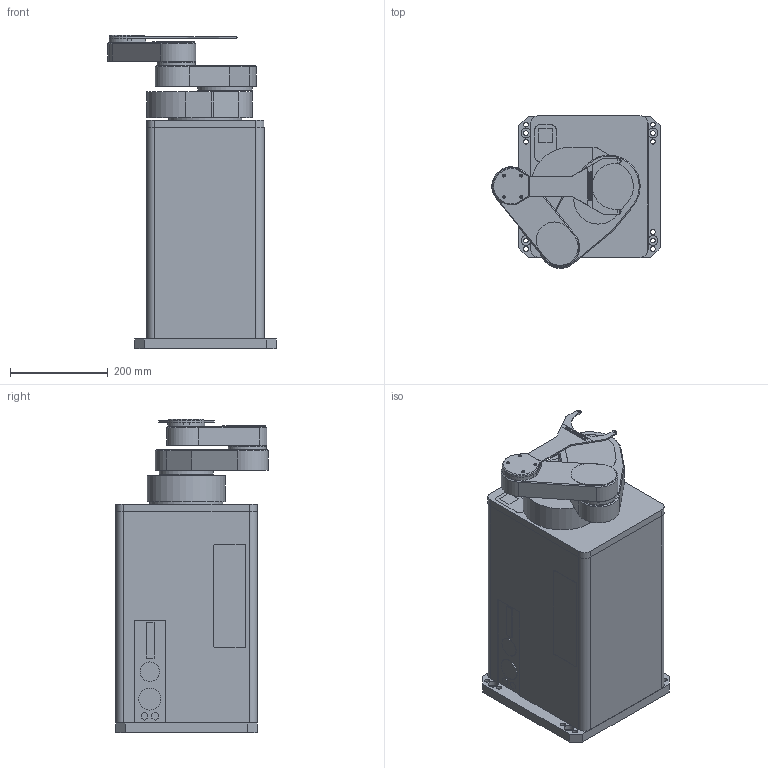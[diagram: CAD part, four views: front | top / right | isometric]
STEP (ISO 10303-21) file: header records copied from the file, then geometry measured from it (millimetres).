
FILE_DESCRIPTION(/* description */ (''),/* implementation_level */ '2;1');
FILE_NAME(/* name */ 'C:\Users\h-mitaka\Desktop\MCR3160C-300-AM-07055A.stp',/* time_stamp */ '2016-03-30T13:07:03+09:00',/* author */ ('h-mitaka'),/* organization */ (''),/* preprocessor_version */ 'ST-DEVELOPER v16.1',/* originating_system */ 'Autodesk Inventor 2016',/* authorisation */ '');
FILE_SCHEMA (('AUTOMOTIVE_DESIGN { 1 0 10303 214 3 1 1 }'));
Length unit declared in the file: millimetre
Products named in the file (8): BODY-MCSB300-V; PIPE-MCS300; ARM1-MC160; ARM2-MC160; WRIST-BLOCK; 3D-01661; COVER; MCR3160C-300-AM-07055A
Assembly tree (7 placements, depth 2):
  MCR3160C-300-AM-07055A
    BODY-MCSB300-V
    PIPE-MCS300
    ARM1-MC160
    ARM2-MC160
    WRIST-BLOCK
    3D-01661
    COVER
Bounding box: 344.99 x 312.9 x 642 mm (x, y, z)
Volume: 36345960.1 mm3; surface area: 1224597.1 mm2
Topology: 7 solids, 7 shells, 284 faces, 718 edges, 474 vertices
Faces by surface type: plane 178, cylinder 95, cone 11
Full cylindrical faces by diameter (mm): 3 x4, 3.6 x4, 4 x1, 9.5 x4, 10 x10, 20 x4, 40 x1, 45 x1, 50 x3, 65 x1, 74 x1, 78 x1, 111 x1, 149.5 x2
Entity records: 8419 total; most frequent: DIRECTION 1463, CARTESIAN_POINT 1418, ORIENTED_EDGE 1314, EDGE_CURVE 657, AXIS2_PLACEMENT_3D 509, VERTEX_POINT 456, LINE 445, VECTOR 445
